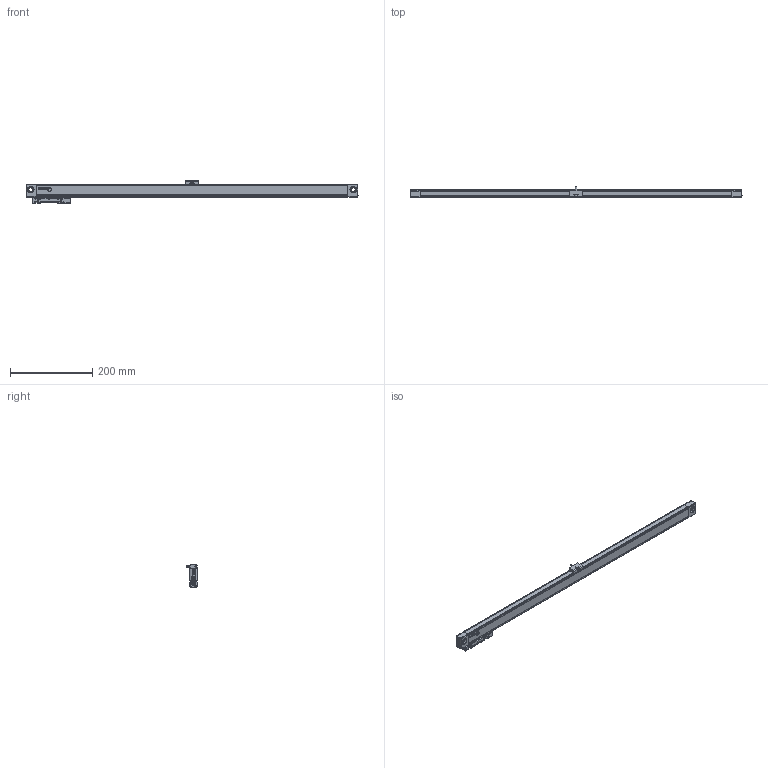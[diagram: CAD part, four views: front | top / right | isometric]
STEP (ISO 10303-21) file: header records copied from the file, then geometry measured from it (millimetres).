
FILE_DESCRIPTION(('Creo Elements/Direct Modeling STEP Export'),'2;1');
FILE_NAME('S3-670-T_V01.stp','2025-06-03T14:22:14',(''),(''),'Creo Elements/Direct Modeling STEP processor for AP214 (Solid Model)','Creo Elements/Direct Modeling 20.4A 18-Oct-2021 (C) Parametric Technology GmbH','');
FILE_SCHEMA(('AUTOMOTIVE_DESIGN { 1 0 10303 214 1 1 1 1 }'));
Length unit declared in the file: millimetre
Products named in the file (5): SOPORTE_INTERMEDIO; CABEZA-T; REGLA; S3-670-T_V01; S3-670-T_V01.stp
Assembly tree (4 placements, depth 3):
  S3-670-T_V01.stp
    S3-670-T_V01
      REGLA
      CABEZA-T
      SOPORTE_INTERMEDIO
Bounding box: 808 x 26.5 x 53.7 mm (x, y, z)
Volume: 449511.6 mm3; surface area: 118405.1 mm2
Topology: 3 solids, 16 shells, 2203 faces, 6738 edges, 4650 vertices
Faces by surface type: plane 1185, cylinder 595, cone 232, bspline 135, torus 49, sphere 6, extrusion 1
Entity records: 91179 total; most frequent: CARTESIAN_POINT 31820, ORIENTED_EDGE 13394, DIRECTION 10811, EDGE_CURVE 6697, VERTEX_POINT 4648, VECTOR 4497, LINE 4496, AXIS2_PLACEMENT_3D 3157
